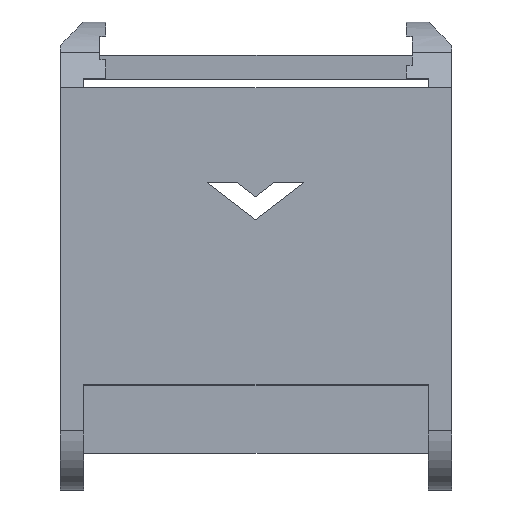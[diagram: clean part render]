
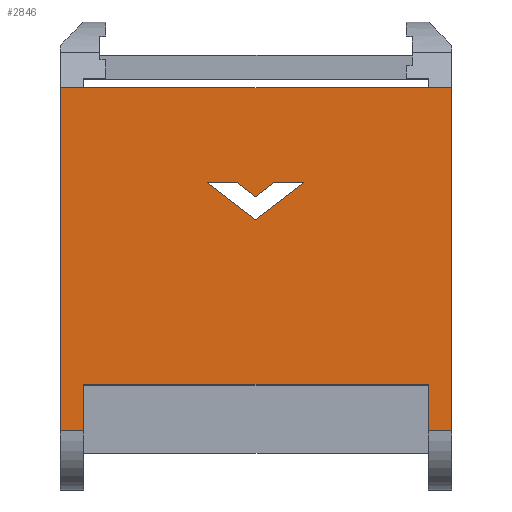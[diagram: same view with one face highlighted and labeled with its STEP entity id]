
A CAD part, top view. The second image highlights one B-rep face of the part: STEP entity #2846.
In plain terms, the highlighted planar face has unit normal (0, 0, 1).
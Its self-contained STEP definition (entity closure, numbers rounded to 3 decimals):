
#7 = LINE ( 'NONE', #2476, #3141 ) ;
#16 = EDGE_LOOP ( 'NONE', ( #3238, #1107, #2982, #2456, #440, #84, #1942, #3835, #2836, #1918 ) ) ;
#23 = ORIENTED_EDGE ( 'NONE', *, *, #2705, .F. ) ;
#55 = ORIENTED_EDGE ( 'NONE', *, *, #387, .F. ) ;
#84 = ORIENTED_EDGE ( 'NONE', *, *, #2160, .F. ) ;
#96 = CARTESIAN_POINT ( 'NONE',  ( 30.24, 0., 0. ) ) ;
#101 = EDGE_CURVE ( 'NONE', #2983, #3020, #3766, .T. ) ;
#122 = EDGE_CURVE ( 'NONE', #232, #3605, #239, .T. ) ;
#150 = EDGE_CURVE ( 'NONE', #1405, #232, #1193, .T. ) ;
#163 = CARTESIAN_POINT ( 'NONE',  ( 1., -29.112, 0. ) ) ;
#187 = VECTOR ( 'NONE', #1747, 1000. ) ;
#232 = VERTEX_POINT ( 'NONE', #1192 ) ;
#239 = LINE ( 'NONE', #3102, #3963 ) ;
#243 = DIRECTION ( 'NONE',  ( 0., -1., 0. ) ) ;
#266 = CARTESIAN_POINT ( 'NONE',  ( 31.24, 0., 0. ) ) ;
#269 = EDGE_CURVE ( 'NONE', #2701, #3039, #2271, .T. ) ;
#366 = CARTESIAN_POINT ( 'NONE',  ( 31.24, 0., 0. ) ) ;
#387 = EDGE_CURVE ( 'NONE', #546, #1405, #3264, .T. ) ;
#440 = ORIENTED_EDGE ( 'NONE', *, *, #101, .T. ) ;
#454 = CARTESIAN_POINT ( 'NONE',  ( 14.015, -8.06, 0. ) ) ;
#459 = EDGE_CURVE ( 'NONE', #2358, #3735, #1633, .T. ) ;
#546 = VERTEX_POINT ( 'NONE', #730 ) ;
#571 = DIRECTION ( 'NONE',  ( 0., 0., -1. ) ) ;
#602 = EDGE_CURVE ( 'NONE', #2818, #2344, #3164, .T. ) ;
#619 = VECTOR ( 'NONE', #3896, 1000. ) ;
#730 = CARTESIAN_POINT ( 'NONE',  ( 15.563, -11.198, 0. ) ) ;
#757 = CARTESIAN_POINT ( 'NONE',  ( 1., 0., 0. ) ) ;
#767 = ORIENTED_EDGE ( 'NONE', *, *, #122, .F. ) ;
#862 = AXIS2_PLACEMENT_3D ( 'NONE', #266, #571, #1233 ) ;
#932 = DIRECTION ( 'NONE',  ( 0., -1., 0. ) ) ;
#936 = EDGE_CURVE ( 'NONE', #3603, #2811, #2764, .T. ) ;
#975 = CARTESIAN_POINT ( 'NONE',  ( -1., 0., 0. ) ) ;
#1051 = DIRECTION ( 'NONE',  ( -1., 0., 0. ) ) ;
#1073 = FACE_OUTER_BOUND ( 'NONE', #16, .T. ) ;
#1107 = ORIENTED_EDGE ( 'NONE', *, *, #1634, .F. ) ;
#1166 = FACE_BOUND ( 'NONE', #2725, .T. ) ;
#1192 = CARTESIAN_POINT ( 'NONE',  ( 17.11, -8.06, 0. ) ) ;
#1193 = LINE ( 'NONE', #2471, #3521 ) ;
#1219 = DIRECTION ( 'NONE',  ( -1., 0., 0. ) ) ;
#1233 = DIRECTION ( 'NONE',  ( -1., 0., 0. ) ) ;
#1358 = CARTESIAN_POINT ( 'NONE',  ( 15.563, -9.245, 0. ) ) ;
#1405 = VERTEX_POINT ( 'NONE', #3109 ) ;
#1422 = VECTOR ( 'NONE', #3312, 1000. ) ;
#1473 = VECTOR ( 'NONE', #3994, 1000. ) ;
#1488 = ORIENTED_EDGE ( 'NONE', *, *, #936, .F. ) ;
#1532 = LINE ( 'NONE', #2386, #1582 ) ;
#1540 = PLANE ( 'NONE',  #862 ) ;
#1547 = VECTOR ( 'NONE', #2011, 1000. ) ;
#1570 = LINE ( 'NONE', #2751, #1473 ) ;
#1582 = VECTOR ( 'NONE', #2673, 1000. ) ;
#1633 = LINE ( 'NONE', #2941, #2470 ) ;
#1634 = EDGE_CURVE ( 'NONE', #3735, #2179, #2263, .T. ) ;
#1649 = ORIENTED_EDGE ( 'NONE', *, *, #2450, .F. ) ;
#1691 = EDGE_CURVE ( 'NONE', #2344, #3039, #1532, .T. ) ;
#1733 = EDGE_CURVE ( 'NONE', #2179, #2818, #2466, .T. ) ;
#1747 = DIRECTION ( 'NONE',  ( 0., -1., 0. ) ) ;
#1771 = VECTOR ( 'NONE', #2062, 1000. ) ;
#1843 = CARTESIAN_POINT ( 'NONE',  ( 1., 0., 0. ) ) ;
#1848 = DIRECTION ( 'NONE',  ( -0.794, -0.608, 0. ) ) ;
#1918 = ORIENTED_EDGE ( 'NONE', *, *, #602, .F. ) ;
#1929 = CARTESIAN_POINT ( 'NONE',  ( 15.563, -9.245, 0. ) ) ;
#1942 = ORIENTED_EDGE ( 'NONE', *, *, #2233, .F. ) ;
#2011 = DIRECTION ( 'NONE',  ( -0.794, 0.608, 0. ) ) ;
#2017 = CARTESIAN_POINT ( 'NONE',  ( 15.563, -11.198, 0. ) ) ;
#2062 = DIRECTION ( 'NONE',  ( -1., 0., 0. ) ) ;
#2121 = CARTESIAN_POINT ( 'NONE',  ( 30.24, -29.112, 0. ) ) ;
#2155 = CARTESIAN_POINT ( 'NONE',  ( 11.464, -8.06, 0. ) ) ;
#2160 = EDGE_CURVE ( 'NONE', #3350, #3020, #3813, .T. ) ;
#2179 = VERTEX_POINT ( 'NONE', #2904 ) ;
#2233 = EDGE_CURVE ( 'NONE', #2701, #3350, #3303, .T. ) ;
#2260 = VECTOR ( 'NONE', #2288, 1000. ) ;
#2263 = LINE ( 'NONE', #96, #3651 ) ;
#2271 = LINE ( 'NONE', #975, #2325 ) ;
#2286 = CARTESIAN_POINT ( 'NONE',  ( 30.24, 0., 0. ) ) ;
#2288 = DIRECTION ( 'NONE',  ( 1., 0., 0. ) ) ;
#2325 = VECTOR ( 'NONE', #932, 1000. ) ;
#2344 = VERTEX_POINT ( 'NONE', #163 ) ;
#2358 = VERTEX_POINT ( 'NONE', #2381 ) ;
#2367 = VECTOR ( 'NONE', #2881, 1000. ) ;
#2381 = CARTESIAN_POINT ( 'NONE',  ( 32.24, -29.112, 0. ) ) ;
#2386 = CARTESIAN_POINT ( 'NONE',  ( 31.24, -29.112, 0. ) ) ;
#2450 = EDGE_CURVE ( 'NONE', #3605, #3603, #3478, .T. ) ;
#2456 = ORIENTED_EDGE ( 'NONE', *, *, #3787, .F. ) ;
#2466 = LINE ( 'NONE', #3637, #1771 ) ;
#2470 = VECTOR ( 'NONE', #1051, 1000. ) ;
#2471 = CARTESIAN_POINT ( 'NONE',  ( 31.24, -8.06, 0. ) ) ;
#2476 = CARTESIAN_POINT ( 'NONE',  ( 32.24, 0., 0. ) ) ;
#2673 = DIRECTION ( 'NONE',  ( -1., 0., 0. ) ) ;
#2701 = VERTEX_POINT ( 'NONE', #3706 ) ;
#2705 = EDGE_CURVE ( 'NONE', #2811, #546, #1570, .T. ) ;
#2725 = EDGE_LOOP ( 'NONE', ( #1649, #767, #3482, #55, #23, #1488 ) ) ;
#2751 = CARTESIAN_POINT ( 'NONE',  ( 11.464, -8.06, 0. ) ) ;
#2764 = LINE ( 'NONE', #3840, #2367 ) ;
#2811 = VERTEX_POINT ( 'NONE', #2155 ) ;
#2818 = VERTEX_POINT ( 'NONE', #3748 ) ;
#2820 = DIRECTION ( 'NONE',  ( -1., 0., 0. ) ) ;
#2836 = ORIENTED_EDGE ( 'NONE', *, *, #1691, .F. ) ;
#2846 = ADVANCED_FACE ( 'NONE', ( #1166, #1073 ), #1540, .F. ) ;
#2881 = DIRECTION ( 'NONE',  ( -1., 0., 0. ) ) ;
#2904 = CARTESIAN_POINT ( 'NONE',  ( 30.24, -25.2, 0. ) ) ;
#2941 = CARTESIAN_POINT ( 'NONE',  ( 31.24, -29.112, 0. ) ) ;
#2982 = ORIENTED_EDGE ( 'NONE', *, *, #459, .F. ) ;
#2983 = VERTEX_POINT ( 'NONE', #3487 ) ;
#3020 = VERTEX_POINT ( 'NONE', #2286 ) ;
#3039 = VERTEX_POINT ( 'NONE', #3244 ) ;
#3102 = CARTESIAN_POINT ( 'NONE',  ( 17.11, -8.06, 0. ) ) ;
#3109 = CARTESIAN_POINT ( 'NONE',  ( 19.662, -8.06, 0. ) ) ;
#3141 = VECTOR ( 'NONE', #243, 1000. ) ;
#3164 = LINE ( 'NONE', #757, #187 ) ;
#3238 = ORIENTED_EDGE ( 'NONE', *, *, #1733, .F. ) ;
#3244 = CARTESIAN_POINT ( 'NONE',  ( -1., -29.112, 0. ) ) ;
#3264 = LINE ( 'NONE', #2017, #619 ) ;
#3303 = LINE ( 'NONE', #3607, #1422 ) ;
#3312 = DIRECTION ( 'NONE',  ( 1., 0., 0. ) ) ;
#3350 = VERTEX_POINT ( 'NONE', #1843 ) ;
#3478 = LINE ( 'NONE', #1358, #1547 ) ;
#3482 = ORIENTED_EDGE ( 'NONE', *, *, #150, .F. ) ;
#3487 = CARTESIAN_POINT ( 'NONE',  ( 32.24, 0., 0. ) ) ;
#3521 = VECTOR ( 'NONE', #1219, 1000. ) ;
#3603 = VERTEX_POINT ( 'NONE', #454 ) ;
#3605 = VERTEX_POINT ( 'NONE', #1929 ) ;
#3607 = CARTESIAN_POINT ( 'NONE',  ( 31.24, 0., 0. ) ) ;
#3637 = CARTESIAN_POINT ( 'NONE',  ( 31.24, -25.2, 0. ) ) ;
#3646 = CARTESIAN_POINT ( 'NONE',  ( 31.24, 0., 0. ) ) ;
#3651 = VECTOR ( 'NONE', #3916, 1000. ) ;
#3706 = CARTESIAN_POINT ( 'NONE',  ( -1., 0., 0. ) ) ;
#3735 = VERTEX_POINT ( 'NONE', #2121 ) ;
#3748 = CARTESIAN_POINT ( 'NONE',  ( 1., -25.2, 0. ) ) ;
#3766 = LINE ( 'NONE', #3646, #3913 ) ;
#3787 = EDGE_CURVE ( 'NONE', #2983, #2358, #7, .T. ) ;
#3813 = LINE ( 'NONE', #366, #2260 ) ;
#3835 = ORIENTED_EDGE ( 'NONE', *, *, #269, .T. ) ;
#3840 = CARTESIAN_POINT ( 'NONE',  ( 31.24, -8.06, 0. ) ) ;
#3896 = DIRECTION ( 'NONE',  ( 0.794, 0.608, 0. ) ) ;
#3913 = VECTOR ( 'NONE', #2820, 1000. ) ;
#3916 = DIRECTION ( 'NONE',  ( 0., 1., 0. ) ) ;
#3963 = VECTOR ( 'NONE', #1848, 1000. ) ;
#3994 = DIRECTION ( 'NONE',  ( 0.794, -0.608, 0. ) ) ;
